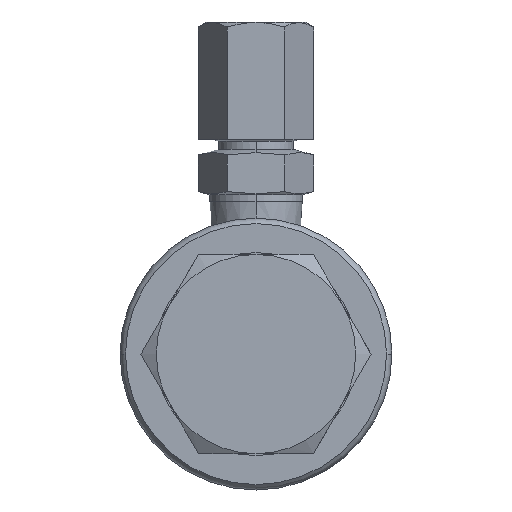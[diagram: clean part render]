
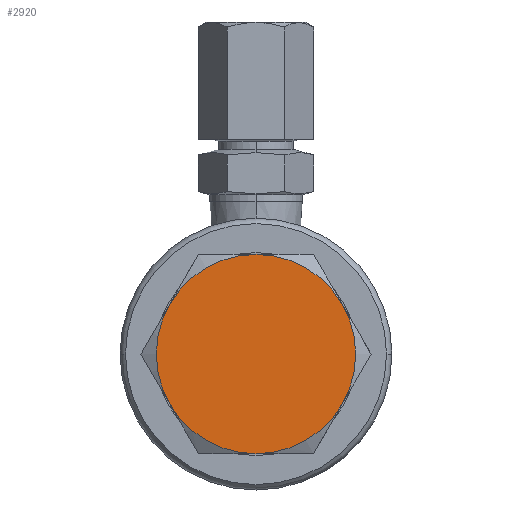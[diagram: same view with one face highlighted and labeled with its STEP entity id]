
A CAD part, front view. The second image highlights one B-rep face of the part: STEP entity #2920.
In plain terms, the highlighted planar face has unit normal (0, -1, 0).
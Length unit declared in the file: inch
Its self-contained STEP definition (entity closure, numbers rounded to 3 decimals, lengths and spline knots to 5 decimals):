
#2189=CARTESIAN_POINT('',(0.,-1.81102,0.));
#2190=DIRECTION('',(0.,1.,0.));
#2191=DIRECTION('',(0.866,0.,-0.5));
#2192=AXIS2_PLACEMENT_3D('',#2189,#2190,#2191);
#2194=CARTESIAN_POINT('',(0.,-1.81102,0.));
#2195=DIRECTION('',(0.,1.,0.));
#2196=DIRECTION('',(0.,0.,-1.));
#2197=AXIS2_PLACEMENT_3D('',#2194,#2195,#2196);
#2199=CARTESIAN_POINT('',(0.,-1.81102,0.));
#2200=DIRECTION('',(0.,1.,0.));
#2201=DIRECTION('',(-0.866,0.,0.5));
#2202=AXIS2_PLACEMENT_3D('',#2199,#2200,#2201);
#2204=CARTESIAN_POINT('',(0.,-1.81102,0.));
#2205=DIRECTION('',(0.,1.,0.));
#2206=DIRECTION('',(0.,0.,1.));
#2207=AXIS2_PLACEMENT_3D('',#2204,#2205,#2206);
#2243=CARTESIAN_POINT('',(0.37505,-1.81102,
0.21654));
#2283=CARTESIAN_POINT('',(0.37505,-1.81102,
-0.21654));
#2323=CARTESIAN_POINT('',(0.,-1.81102,
-0.43307));
#2363=CARTESIAN_POINT('',(-0.37505,-1.81102,
-0.21654));
#2403=CARTESIAN_POINT('',(-0.37505,-1.81102,
0.21654));
#2443=CARTESIAN_POINT('',(0.,-1.81102,
0.43307));
#2449=CARTESIAN_POINT('',(0.,-1.81102,0.));
#2450=DIRECTION('',(0.,-1.,0.));
#2451=DIRECTION('',(-0.866,0.,0.5));
#2452=AXIS2_PLACEMENT_3D('',#2449,#2450,#2451);
#2454=CARTESIAN_POINT('',(0.,-1.81102,0.));
#2455=DIRECTION('',(0.,-1.,0.));
#2456=DIRECTION('',(0.866,0.,-0.5));
#2457=AXIS2_PLACEMENT_3D('',#2454,#2455,#2456);
#2816=VERTEX_POINT('',#2243);
#2818=VERTEX_POINT('',#2283);
#2820=VERTEX_POINT('',#2323);
#2822=VERTEX_POINT('',#2363);
#2824=VERTEX_POINT('',#2403);
#2826=VERTEX_POINT('',#2443);
#2901=CARTESIAN_POINT('',(0.,-1.81102,0.));
#2902=DIRECTION('',(0.,1.,0.));
#2903=DIRECTION('',(-1.,0.,0.));
#2904=AXIS2_PLACEMENT_3D('',#2901,#2902,#2903);
#2905=PLANE('',#2904);
#2907=ORIENTED_EDGE('',*,*,#2906,.F.);
#2909=ORIENTED_EDGE('',*,*,#2908,.T.);
#2911=ORIENTED_EDGE('',*,*,#2910,.T.);
#2913=ORIENTED_EDGE('',*,*,#2912,.F.);
#2915=ORIENTED_EDGE('',*,*,#2914,.T.);
#2917=ORIENTED_EDGE('',*,*,#2916,.T.);
#2918=EDGE_LOOP('',(#2907,#2909,#2911,#2913,#2915,#2917));
#2919=FACE_OUTER_BOUND('',#2918,.F.);
#2920=ADVANCED_FACE('',(#2919),#2905,.F.);
#2193=CIRCLE('',#2192,0.43307);
#2198=CIRCLE('',#2197,0.43307);
#2203=CIRCLE('',#2202,0.43307);
#2208=CIRCLE('',#2207,0.43307);
#2453=CIRCLE('',#2452,0.43307);
#2458=CIRCLE('',#2457,0.43307);
#2906=EDGE_CURVE('',#2818,#2816,#2458,.T.);
#2908=EDGE_CURVE('',#2818,#2820,#2193,.T.);
#2910=EDGE_CURVE('',#2820,#2822,#2198,.T.);
#2912=EDGE_CURVE('',#2824,#2822,#2453,.T.);
#2914=EDGE_CURVE('',#2824,#2826,#2203,.T.);
#2916=EDGE_CURVE('',#2826,#2816,#2208,.T.);
